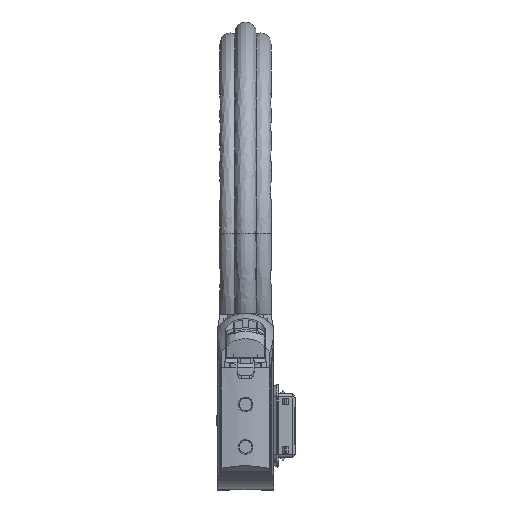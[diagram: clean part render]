
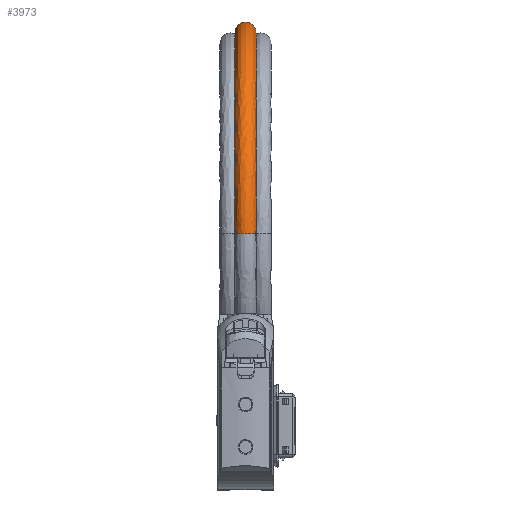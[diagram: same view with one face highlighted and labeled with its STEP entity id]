
A CAD part, top view. The second image highlights one B-rep face of the part: STEP entity #3973.
In plain terms, the highlighted free-form (B-spline) face has degree [3, 3] with [7, 4] control points.
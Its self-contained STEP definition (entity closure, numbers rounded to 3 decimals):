
#438 = CIRCLE ( 'NONE', #3533, 37.755 ) ;
#877 = ORIENTED_EDGE ( 'NONE', *, *, #8893, .T. ) ;
#928 = CARTESIAN_POINT ( 'NONE',  ( -3.105, 48.4, -121.403 ) ) ;
#1768 = CARTESIAN_POINT ( 'NONE',  ( -3.86, 48.4, -200.45 ) ) ;
#2207 = ORIENTED_EDGE ( 'NONE', *, *, #36797, .T. ) ;
#3368 = CARTESIAN_POINT ( 'NONE',  ( -3.973, 48.4, -200.45 ) ) ;
#3533 = AXIS2_PLACEMENT_3D ( 'NONE', #20299, #21207, #8658 ) ;
#3893 = CARTESIAN_POINT ( 'NONE',  ( -5.25, 48.4, -200.45 ) ) ;
#3973 = ADVANCED_FACE ( 'NONE', ( #4263 ), #35290, .T. ) ;
#4263 = FACE_OUTER_BOUND ( 'NONE', #8126, .T. ) ;
#4453 = CARTESIAN_POINT ( 'NONE',  ( -2.992, 126.227, -121.536 ) ) ;
#4944 = CARTESIAN_POINT ( 'NONE',  ( -3.265, 48.4, -122.695 ) ) ;
#6057 = CARTESIAN_POINT ( 'NONE',  ( -7.395, 48.4, -199.497 ) ) ;
#6664 = CARTESIAN_POINT ( 'NONE',  ( -7.235, 48.4, -122.695 ) ) ;
#6806 = CARTESIAN_POINT ( 'NONE',  ( -3.86, 128.4, -120.45 ) ) ;
#7581 = CARTESIAN_POINT ( 'NONE',  ( -3.3, 48.4, -198.008 ) ) ;
#8126 = EDGE_LOOP ( 'NONE', ( #877, #27569, #2207, #18293 ) ) ;
#8658 = DIRECTION ( 'NONE',  ( 0., 0., -1. ) ) ;
#8708 = CARTESIAN_POINT ( 'NONE',  ( -7.235, 48.4, -198.205 ) ) ;
#8893 = EDGE_CURVE ( 'NONE', #34770, #25383, #25949, .T. ) ;
#10028 = CARTESIAN_POINT ( 'NONE',  ( -3.265, 48.4, -198.205 ) ) ;
#10052 = CARTESIAN_POINT ( 'NONE',  ( -7.235, 48.4, -122.695 ) ) ;
#11022 = DIRECTION ( 'NONE',  ( 1., 0., 0. ) ) ;
#12078 = EDGE_CURVE ( 'NONE', #26247, #34770, #38301, .T. ) ;
#12756 = CARTESIAN_POINT ( 'NONE',  ( -3.973, 48.4, -120.45 ) ) ;
#14796 = AXIS2_PLACEMENT_3D ( 'NONE', #16852, #11022, #20340 ) ;
#15754 = CARTESIAN_POINT ( 'NONE',  ( -5.25, 128.4, -200.45 ) ) ;
#16522 = CARTESIAN_POINT ( 'NONE',  ( -3.3, 123.516, -122.892 ) ) ;
#16852 = CARTESIAN_POINT ( 'NONE',  ( -7.235, 48.4, -160.45 ) ) ;
#16909 = CARTESIAN_POINT ( 'NONE',  ( -7.2, 123.516, -122.892 ) ) ;
#17294 = CARTESIAN_POINT ( 'NONE',  ( -7.508, 126.227, -199.364 ) ) ;
#17488 = CARTESIAN_POINT ( 'NONE',  ( -7.2, 123.516, -198.008 ) ) ;
#18293 = ORIENTED_EDGE ( 'NONE', *, *, #12078, .T. ) ;
#18571 = EDGE_CURVE ( 'NONE', #33692, #25383, #20869, .T. ) ;
#19237 = CARTESIAN_POINT ( 'NONE',  ( -2.992, 48.4, -199.364 ) ) ;
#19622 = CARTESIAN_POINT ( 'NONE',  ( -6.64, 48.4, -200.45 ) ) ;
#20299 = CARTESIAN_POINT ( 'NONE',  ( -3.265, 48.4, -160.45 ) ) ;
#20340 = DIRECTION ( 'NONE',  ( 0., 0., -1. ) ) ;
#20846 = CARTESIAN_POINT ( 'NONE',  ( -5.25, 48.4, -200.45 ) ) ;
#20869 =( BOUNDED_CURVE ( )  B_SPLINE_CURVE ( 3, ( #21508, #928, #12756, #36489, #33576, #30668, #10052 ),
 .UNSPECIFIED., .F., .T. ) 
 B_SPLINE_CURVE_WITH_KNOTS ( ( 4, 3, 4 ),
 ( 0.031, 0.5, 0.969 ),
 .UNSPECIFIED. ) 
 CURVE ( )  GEOMETRIC_REPRESENTATION_ITEM ( )  RATIONAL_B_SPLINE_CURVE ( ( 0.956, 0.75, 0.765, 1., 0.765, 0.75, 0.956 ) ) 
 REPRESENTATION_ITEM ( '' )  );
#21207 = DIRECTION ( 'NONE',  ( -1., 0., 0. ) ) ;
#21508 = CARTESIAN_POINT ( 'NONE',  ( -3.265, 48.4, -122.695 ) ) ;
#21562 = CARTESIAN_POINT ( 'NONE',  ( -3.3, 48.4, -122.892 ) ) ;
#23758 = CARTESIAN_POINT ( 'NONE',  ( -6.527, 48.4, -200.45 ) ) ;
#24674 = CARTESIAN_POINT ( 'NONE',  ( -5.25, 48.4, -120.45 ) ) ;
#25383 = VERTEX_POINT ( 'NONE', #6664 ) ;
#25949 = CIRCLE ( 'NONE', #14796, 37.755 ) ;
#26039 = CARTESIAN_POINT ( 'NONE',  ( -7.508, 48.4, -121.536 ) ) ;
#26247 = VERTEX_POINT ( 'NONE', #10028 ) ;
#27569 = ORIENTED_EDGE ( 'NONE', *, *, #18571, .F. ) ;
#27587 = CARTESIAN_POINT ( 'NONE',  ( -5.25, 128.4, -120.45 ) ) ;
#28367 = CARTESIAN_POINT ( 'NONE',  ( -2.992, 48.4, -121.536 ) ) ;
#28565 = CARTESIAN_POINT ( 'NONE',  ( -7.508, 126.227, -121.536 ) ) ;
#29211 = CARTESIAN_POINT ( 'NONE',  ( -3.105, 48.4, -199.497 ) ) ;
#29344 = CARTESIAN_POINT ( 'NONE',  ( -7.508, 48.4, -199.364 ) ) ;
#29406 = CARTESIAN_POINT ( 'NONE',  ( -7.235, 48.4, -198.205 ) ) ;
#30542 = CARTESIAN_POINT ( 'NONE',  ( -3.86, 48.4, -120.45 ) ) ;
#30668 = CARTESIAN_POINT ( 'NONE',  ( -7.395, 48.4, -121.403 ) ) ;
#31105 = CARTESIAN_POINT ( 'NONE',  ( -2.992, 126.227, -199.364 ) ) ;
#31497 = CARTESIAN_POINT ( 'NONE',  ( -6.64, 128.4, -120.45 ) ) ;
#32266 = CARTESIAN_POINT ( 'NONE',  ( -6.64, 128.4, -200.45 ) ) ;
#33447 = CARTESIAN_POINT ( 'NONE',  ( -3.86, 128.4, -200.45 ) ) ;
#33576 = CARTESIAN_POINT ( 'NONE',  ( -6.527, 48.4, -120.45 ) ) ;
#33692 = VERTEX_POINT ( 'NONE', #4944 ) ;
#34020 = CARTESIAN_POINT ( 'NONE',  ( -3.3, 123.516, -198.008 ) ) ;
#34409 = CARTESIAN_POINT ( 'NONE',  ( -7.2, 48.4, -198.008 ) ) ;
#34770 = VERTEX_POINT ( 'NONE', #8708 ) ;
#34985 = CARTESIAN_POINT ( 'NONE',  ( -6.64, 48.4, -120.45 ) ) ;
#35230 = CARTESIAN_POINT ( 'NONE',  ( -3.265, 48.4, -198.205 ) ) ;
#35290 =( BOUNDED_SURFACE ( )  B_SPLINE_SURFACE ( 3, 3, ( 
 ( #7581, #34020, #16522, #21562 ),
 ( #19237, #31105, #4453, #28367 ),
 ( #1768, #33447, #6806, #30542 ),
 ( #3893, #15754, #27587, #24674 ),
 ( #19622, #32266, #31497, #34985 ),
 ( #29344, #17294, #28565, #26039 ),
 ( #34409, #17488, #16909, #37883 ) ),
 .UNSPECIFIED., .F., .F., .T. ) 
 B_SPLINE_SURFACE_WITH_KNOTS ( ( 4, 3, 4 ),
 ( 4, 4 ),
 ( 0., 0.5, 1. ),
 ( 0., 1. ),
 .UNSPECIFIED. ) 
 GEOMETRIC_REPRESENTATION_ITEM ( )  RATIONAL_B_SPLINE_SURFACE ( (
 ( 1., 0.333, 0.333, 1.),
 ( 0.749, 0.25, 0.25, 0.749),
 ( 0.749, 0.25, 0.25, 0.749),
 ( 1., 0.333, 0.333, 1.),
 ( 0.749, 0.25, 0.25, 0.749),
 ( 0.749, 0.25, 0.25, 0.749),
 ( 1., 0.333, 0.333, 1.) ) ) 
 REPRESENTATION_ITEM ( '' )  SURFACE ( )  );
#36489 = CARTESIAN_POINT ( 'NONE',  ( -5.25, 48.4, -120.45 ) ) ;
#36797 = EDGE_CURVE ( 'NONE', #33692, #26247, #438, .T. ) ;
#37883 = CARTESIAN_POINT ( 'NONE',  ( -7.2, 48.4, -122.892 ) ) ;
#38301 =( BOUNDED_CURVE ( )  B_SPLINE_CURVE ( 3, ( #35230, #29211, #3368, #20846, #23758, #6057, #29406 ),
 .UNSPECIFIED., .F., .T. ) 
 B_SPLINE_CURVE_WITH_KNOTS ( ( 4, 3, 4 ),
 ( 0.031, 0.5, 0.969 ),
 .UNSPECIFIED. ) 
 CURVE ( )  GEOMETRIC_REPRESENTATION_ITEM ( )  RATIONAL_B_SPLINE_CURVE ( ( 0.956, 0.75, 0.765, 1., 0.765, 0.75, 0.956 ) ) 
 REPRESENTATION_ITEM ( '' )  );
